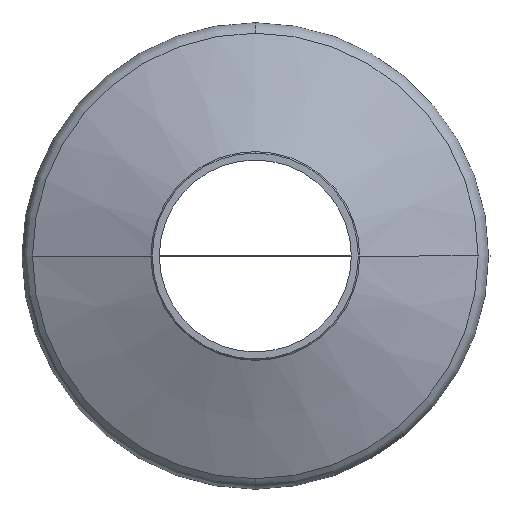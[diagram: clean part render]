
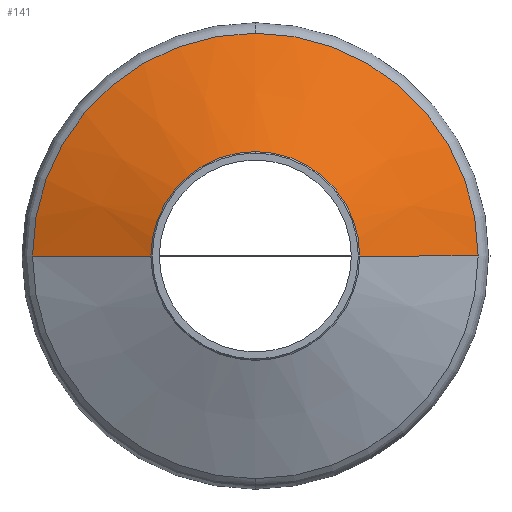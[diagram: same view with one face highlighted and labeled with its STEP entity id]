
A CAD part, left-side view. The second image highlights one B-rep face of the part: STEP entity #141.
In plain terms, the highlighted conical face has half-angle 66.537 degrees and reference radius 116.75 mm.
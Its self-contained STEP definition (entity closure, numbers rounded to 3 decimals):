
#141=ADVANCED_FACE('',(#377),#378,.T.);
#377=FACE_OUTER_BOUND('',#743,.T.);
#378=CONICAL_SURFACE('',#744,116.75,1.161);
#743=EDGE_LOOP('',(#1135,#1136,#1137,#1138,#1139,#1140));
#744=AXIS2_PLACEMENT_3D('',#1141,#1142,#1143);
#1135=ORIENTED_EDGE('',*,*,#2142,.F.);
#1136=ORIENTED_EDGE('',*,*,#2143,.T.);
#1137=ORIENTED_EDGE('',*,*,#2144,.T.);
#1138=ORIENTED_EDGE('',*,*,#2145,.F.);
#1139=ORIENTED_EDGE('',*,*,#2146,.F.);
#1140=ORIENTED_EDGE('',*,*,#2138,.F.);
#1141=CARTESIAN_POINT('',(-62.929,0.0,0.0));
#1142=DIRECTION('',(1.0,-0.0,-0.0));
#1143=DIRECTION('',(0.0,1.0,0.0));
#2138=EDGE_CURVE('',#2563,#2565,#2566,.T.);
#2142=EDGE_CURVE('',#2570,#2563,#2571,.T.);
#2143=EDGE_CURVE('',#2570,#2572,#2573,.T.);
#2144=EDGE_CURVE('',#2572,#2574,#2575,.T.);
#2145=EDGE_CURVE('',#2576,#2574,#2577,.T.);
#2146=EDGE_CURVE('',#2565,#2576,#2578,.T.);
#2563=VERTEX_POINT('',#3217);
#2565=VERTEX_POINT('',#3219);
#2566=CIRCLE('',#3220,159.0);
#2570=VERTEX_POINT('',#3224);
#2571=LINE('',#3225,#3226);
#2572=VERTEX_POINT('',#3227);
#2573=CIRCLE('',#3228,74.5);
#2574=VERTEX_POINT('',#3229);
#2575=CIRCLE('',#3230,74.5);
#2576=VERTEX_POINT('',#3231);
#2577=LINE('',#3232,#3233);
#2578=CIRCLE('',#3234,159.0);
#3217=CARTESIAN_POINT('',(-44.59,159.0,0.0));
#3219=CARTESIAN_POINT('',(-44.59,0.,159.0));
#3220=AXIS2_PLACEMENT_3D('',#4277,#4278,#4279);
#3224=CARTESIAN_POINT('',(-81.268,74.5,0.0));
#3225=CARTESIAN_POINT('',(-62.929,116.75,0.));
#3226=VECTOR('',#4286,1.0);
#3227=CARTESIAN_POINT('',(-81.268,0.,74.5));
#3228=AXIS2_PLACEMENT_3D('',#4287,#4288,#4289);
#3229=CARTESIAN_POINT('',(-81.268,-74.5,0.));
#3230=AXIS2_PLACEMENT_3D('',#4290,#4291,#4292);
#3231=CARTESIAN_POINT('',(-44.59,-159.0,0.));
#3232=CARTESIAN_POINT('',(-62.929,-116.75,0.));
#3233=VECTOR('',#4293,1.0);
#3234=AXIS2_PLACEMENT_3D('',#4294,#4295,#4296);
#4277=CARTESIAN_POINT('',(-44.59,0.0,0.0));
#4278=DIRECTION('',(1.0,0.0,0.0));
#4279=DIRECTION('',(0.0,1.0,0.0));
#4286=DIRECTION('',(0.398,0.917,0.));
#4287=CARTESIAN_POINT('',(-81.268,0.0,0.0));
#4288=DIRECTION('',(1.0,0.0,0.0));
#4289=DIRECTION('',(0.0,1.0,0.0));
#4290=CARTESIAN_POINT('',(-81.268,0.0,0.0));
#4291=DIRECTION('',(1.0,0.0,0.0));
#4292=DIRECTION('',(0.0,1.0,0.0));
#4293=DIRECTION('',(-0.398,0.917,0.));
#4294=CARTESIAN_POINT('',(-44.59,0.0,0.0));
#4295=DIRECTION('',(1.0,0.0,0.0));
#4296=DIRECTION('',(0.0,1.0,0.0));
